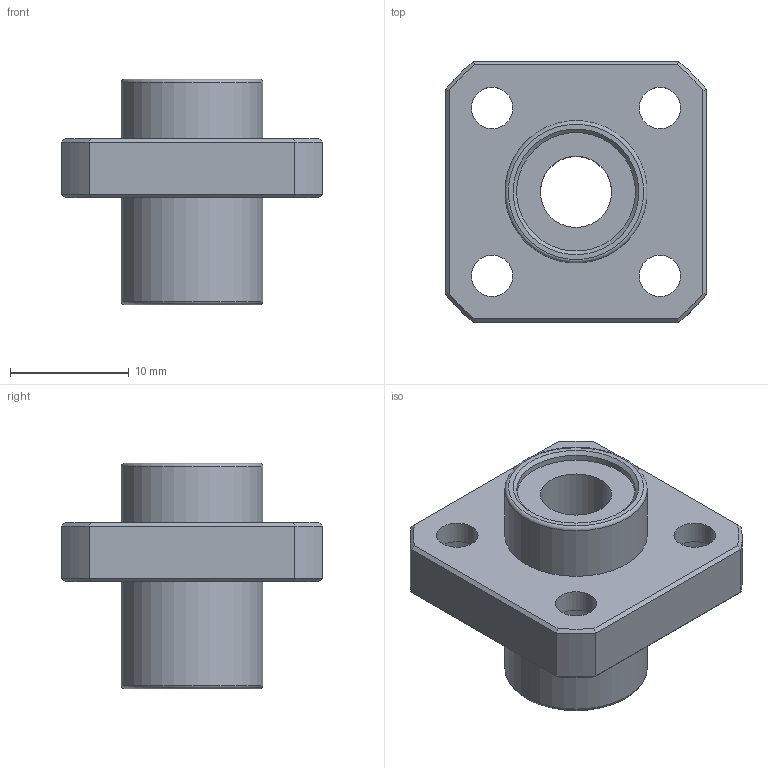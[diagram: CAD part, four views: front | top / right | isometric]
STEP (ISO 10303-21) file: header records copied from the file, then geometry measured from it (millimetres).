
FILE_DESCRIPTION(/* description */ (''),/* implementation_level */ '2;1');
FILE_NAME(/* name */ 'LMKP6UU',/* time_stamp */ '2019-07-10T08:52:24+02:00',/* author */ ('VĂ©gh MĂˇtĂ©'),/* organization */ ('Bearing Kft'),/* preprocessor_version */ 'ST-DEVELOPER v16.7',/* originating_system */ 'DEX',/* authorisation */ $);
FILE_SCHEMA (('AUTOMOTIVE_DESIGN {1 0 10303 214 3 1 1}'));
Length unit declared in the file: millimetre
Products named in the file (1): LMKP6UU
Bounding box: 22 x 22 x 19 mm (x, y, z)
Volume: 2899.5 mm3; surface area: 2408.3 mm2
Topology: 1 solids, 1 shells, 359 faces, 890 edges, 588 vertices
Faces by surface type: plane 262, bspline 66, cylinder 19, cone 10, torus 2
Full cylindrical faces by diameter (mm): 3.5 x4, 6 x5, 10 x2, 12 x2
Entity records: 12897 total; most frequent: CARTESIAN_POINT 4837, ORIENTED_EDGE 1734, DIRECTION 1357, EDGE_CURVE 867, LINE 669, VECTOR 669, VERTEX_POINT 584, EDGE_LOOP 443
